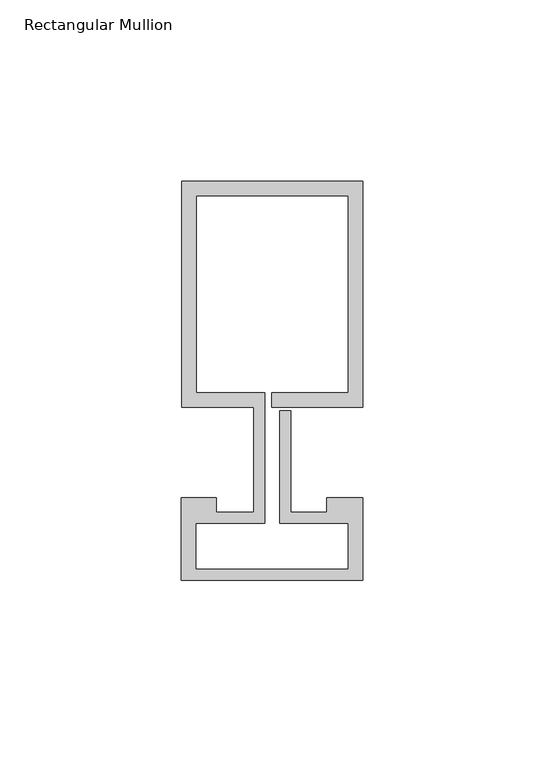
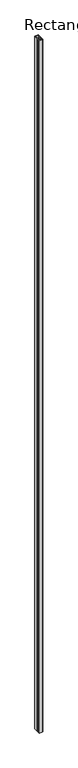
"""IFC4 building model written with IfcOpenShell, lengths in millimetres: member geometry, Rectangular Mullion : Reynaers_CW-50_Mullion-Transom_Vertical_62.5mm_Facecap-02C."""

from ifc_helpers import new_model, si_unit, frame, origin, place, context, project, spatial, polyline, outline, extrude, source, transform, mapped, element, save


def rectangular_mullion_8485e544(model_context):
    return source(origin(), model_context, "Body", "SweptSolid", [
        extrude(outline(polyline([(-24.8004059, 75.0), (25.1995941, 75.0), (25.1995941, 12.5), (0.0, 12.5), (0.0, 16.5), (21.1995941, 16.5), (21.1995941, 71.0), (-20.8004059, 71.0), (-20.8004059, 16.5), (-1.9004059, 16.5), (-1.9004059, -19.5), (-20.994845, -19.5), (-20.994845, -32.2191338), (21.1995941, -32.2191338), (21.1995941, -19.5), (2.2995941, -19.5), (2.2995941, 11.5), (5.2995941, 11.5), (5.2995941, -16.5), (15.2996495, -16.5), (15.2996495, -12.5), (25.1995941, -12.5), (25.1995941, -35.3), (-24.994845, -35.3), (-24.994845, -12.5), (-15.2996495, -12.5), (-15.2996495, -16.5), (-4.9004059, -16.5), (-4.9004059, 12.5), (-24.8004059, 12.5), (-24.8004059, 75.0)])), frame((0.0, 0.0, -10400.0), z_axis=(0.0, 0.0, 1.0), x_axis=(1.0, 0.0, 0.0)), (0.0, 0.0, 1.0), 10400.0),
    ])


if __name__ == "__main__":
    model = new_model("IFC4")
    model_context = context("Model", 3, world=origin())
    ifc_project = project(units=[si_unit("LENGTHUNIT", "METRE", prefix="MILLI")], contexts=[model_context])
    site = spatial("IfcSite", under=ifc_project)
    building = spatial("IfcBuilding", under=site)
    placement = place(None, origin())
    rectangular_mullion_shape = rectangular_mullion_8485e544(model_context)
    element("IfcMember", 1, ObjectType="Rectangular Mullion : Reynaers_CW-50_Mullion-Transom_Vertical_62.5mm_Facecap-02C", at=placement, inside=building, context=model_context, shape_type="MappedRepresentation", body=[
        mapped(rectangular_mullion_shape, transform((0.0, 0.0, 0.0), x_axis=(1.0, 0.0, 0.0), y_axis=(0.0, 1.0, 0.0), z_axis=(0.0, 0.0, 1.0))),
    ])
    save(model, "model.ifc")
